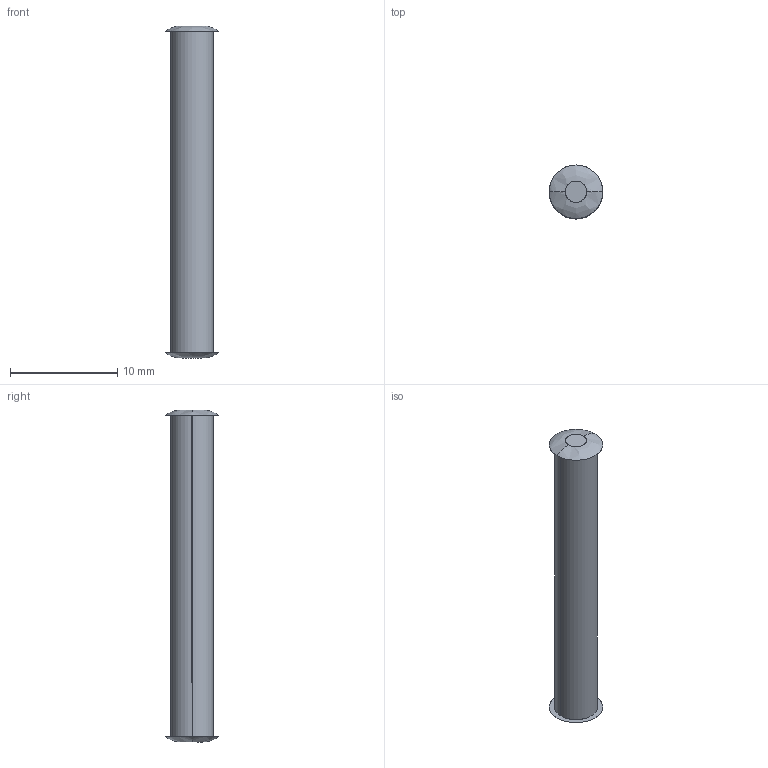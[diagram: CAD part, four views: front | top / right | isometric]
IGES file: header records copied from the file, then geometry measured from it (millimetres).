
Start section: SolidWorks IGES FILE using analytic representation for surfaces
Global section: file name: C:\Documents and Settings\brechard\Bureau\GE 85\85.040.00.IGS; native system: SolidWorks 2001Plus by SolidWorks Corporation; preprocessor: Version 5.3; author: brechard; date: 050126.112913; units: millimetre
Bounding box: 5 x 5 x 31 mm (x, y, z)
Surface area: 433.3 mm2 (no closed solid volume)
Topology: 0 solids, 0 shells, 10 faces, 216 edges, 216 vertices
Faces by surface type: bspline 8, revolution 2
